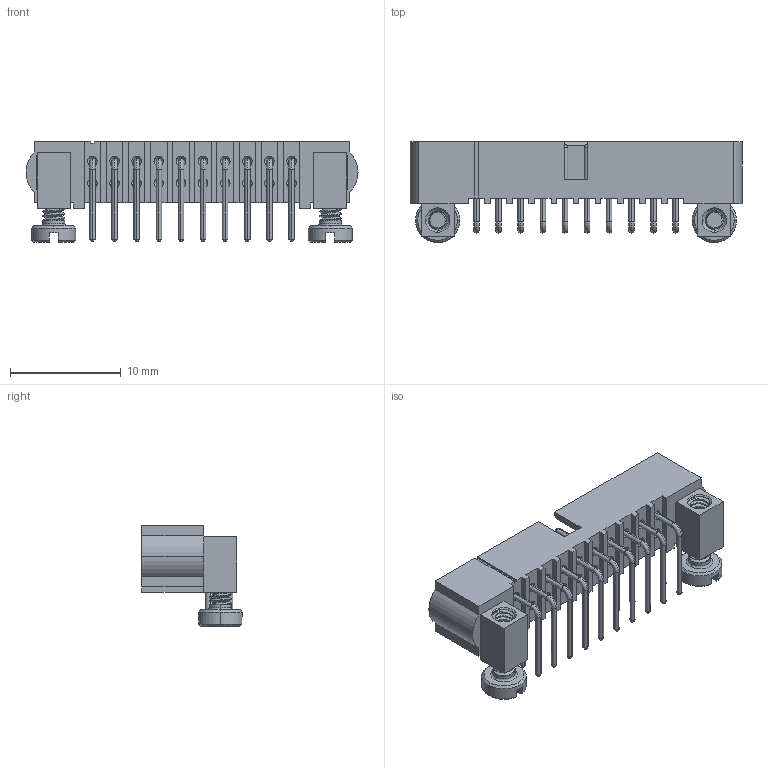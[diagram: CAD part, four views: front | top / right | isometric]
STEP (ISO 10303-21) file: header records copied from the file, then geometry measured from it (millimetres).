
FILE_DESCRIPTION(('STEP AP242'),'1');
FILE_NAME('m80-5402042.stp','2024-05-17T06:34:10',('TraceParts'),('TraceParts S.A.'),'Spatial InterOp 3D',' ',' ');
FILE_SCHEMA(('AP242_MANAGED_MODEL_BASED_3D_ENGINEERING_MIM_LF {1 0 10303 442 1 1 4}'));
Length unit declared in the file: millimetre
Products named in the file (1): m80-5402042_1
Bounding box: 30 x 9.1 x 9.12 mm (x, y, z)
Volume: 670.3 mm3; surface area: 1986.7 mm2
Topology: 25 solids, 25 shells, 999 faces, 2327 edges, 1406 vertices
Faces by surface type: plane 337, cylinder 306, cone 168, bspline 140, torus 48
Entity records: 58854 total; most frequent: CARTESIAN_POINT 23621, ORIENTED_EDGE 4646, DIRECTION 4493, STYLED_ITEM 2504, PRESENTATION_STYLE_ASSIGNMENT 2504, COLOUR_RGB 2504, EDGE_CURVE 2323, CURVE_STYLE 2299
